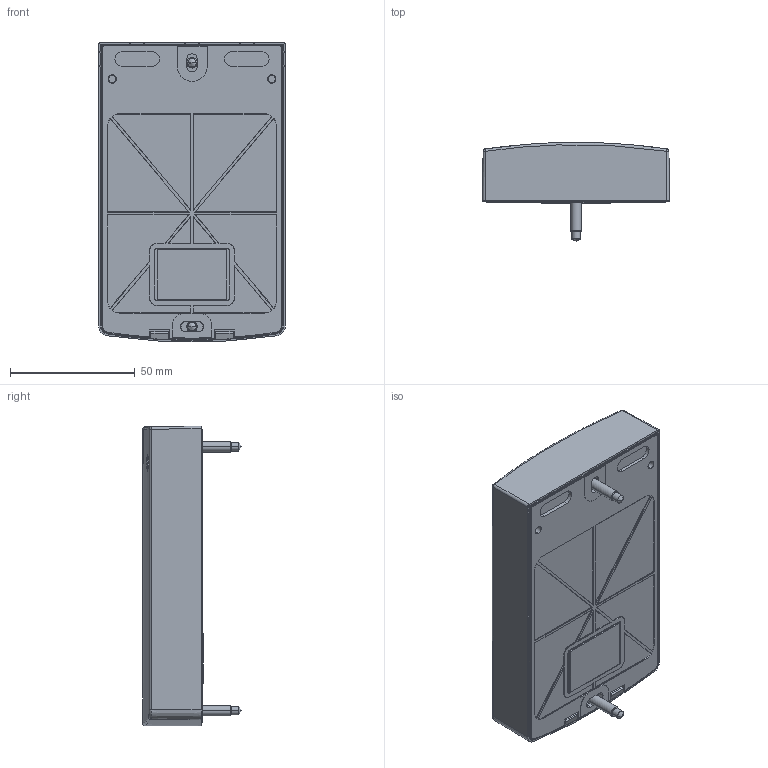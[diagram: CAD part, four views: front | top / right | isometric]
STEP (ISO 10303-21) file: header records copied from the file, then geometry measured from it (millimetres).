
FILE_DESCRIPTION (( 'STEP AP214' ), '1' );
FILE_NAME ('R2.STEP', '2020-11-26T11:13:32', ( '' ), ( '' ), 'SwSTEP 2.0', 'SolidWorks 2017', '' );
FILE_SCHEMA (( 'AUTOMOTIVE_DESIGN' ));
Length unit declared in the file: millimetre
Products named in the file (2): R2
Bounding box: 75 x 39.69 x 120.3 mm (x, y, z)
Volume: 189443.8 mm3; surface area: 40783.6 mm2
Topology: 10 solids, 15 shells, 1796 faces, 4775 edges, 2959 vertices
Faces by surface type: bspline 750, plane 391, cylinder 376, torus 120, cone 93, sphere 66
Entity records: 88461 total; most frequent: CARTESIAN_POINT 31730, ORIENTED_EDGE 9414, DIRECTION 5426, EDGE_CURVE 4707, VERTEX_POINT 2959, B_SPLINE_CURVE_WITH_KNOTS 2213, AXIS2_PLACEMENT_3D 2080, EDGE_LOOP 1850
